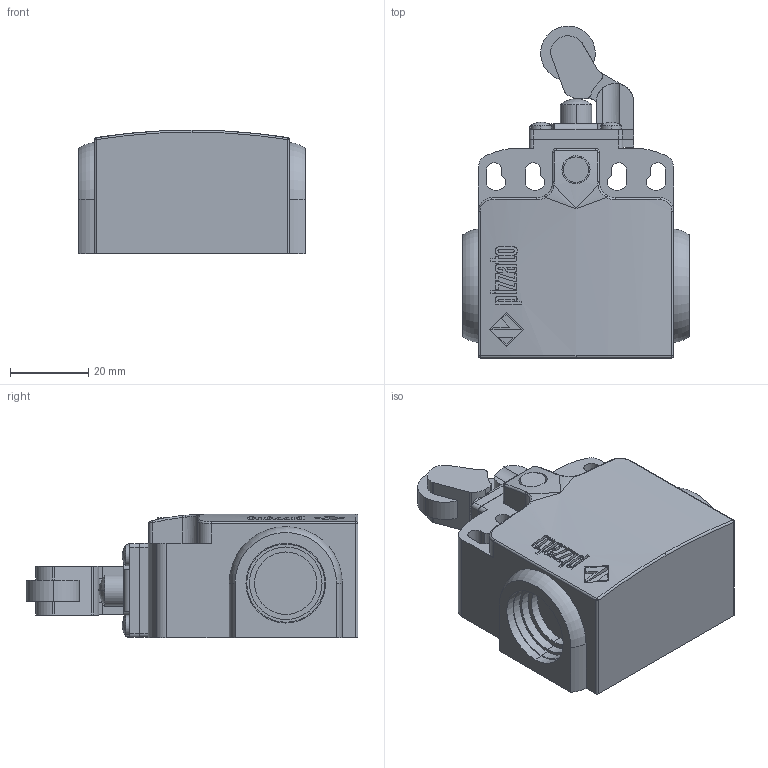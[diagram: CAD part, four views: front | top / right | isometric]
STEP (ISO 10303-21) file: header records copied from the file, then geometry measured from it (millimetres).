
FILE_DESCRIPTION (( 'STEP AP203' ), '1' );
FILE_NAME ('ZF_STEP_FX_x02.STEP', '2024-01-09T17:23:49', ( '' ), ( '' ), 'SwSTEP 2.0', 'SolidWorks 2020', '' );
FILE_SCHEMA (( 'CONFIG_CONTROL_DESIGN' ));
Length unit declared in the file: millimetre
Products named in the file (7): Pizzato_Custodia_FX_3dweb; ZF_STEP_FX_x02; PIzzato_Leva_TE02_3407; Pizzato_Supporto_TE02; Pizzato_Pulsante_TE01; ZF_STEP_VF_TE02
Assembly tree (6 placements, depth 3):
  ZF_STEP_FX_x02
    Pizzato_Custodia_FX_3dweb
      Pizzato_Custodia_FX_3dweb
    ZF_STEP_VF_TE02
      Pizzato_Supporto_TE02
      PIzzato_Leva_TE02_3407
      Pizzato_Pulsante_TE01
Bounding box: 58 x 85.04 x 31.7 mm (x, y, z)
Volume: 84164.5 mm3; surface area: 20238.5 mm2
Topology: 4 solids, 4 shells, 531 faces, 1398 edges, 918 vertices
Faces by surface type: plane 272, cylinder 120, bspline 119, sphere 12, torus 8
Entity records: 21238 total; most frequent: CARTESIAN_POINT 7976, ORIENTED_EDGE 2788, DIRECTION 2277, EDGE_CURVE 1394, VERTEX_POINT 918, LINE 831, VECTOR 831, AXIS2_PLACEMENT_3D 723
